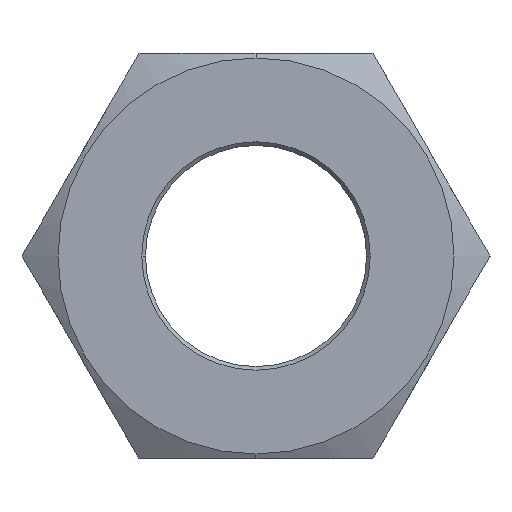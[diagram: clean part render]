
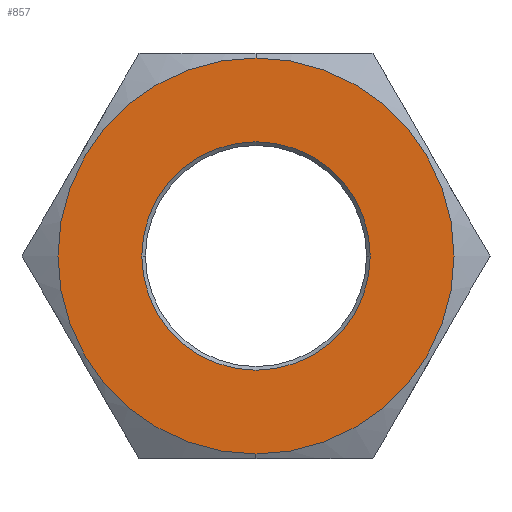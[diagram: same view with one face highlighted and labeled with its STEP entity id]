
A CAD part, left-side view. The second image highlights one B-rep face of the part: STEP entity #857.
In plain terms, the highlighted planar face has unit normal (-1, 0, 0) as drawn and (0, 0, 1) by its records, which use the part's own axes.
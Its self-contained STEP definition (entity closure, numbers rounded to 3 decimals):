
#141=CARTESIAN_POINT('',(10.75,0.0,8.));
#142=VERTEX_POINT('',#141);
#151=CARTESIAN_POINT('',(-10.75,0.,8.0));
#152=VERTEX_POINT('',#151);
#153=CARTESIAN_POINT('',(0.,0.0,8.0));
#154=DIRECTION('',(0.0,0.0,1.0));
#155=DIRECTION('',(1.0,0.0,0.0));
#156=AXIS2_PLACEMENT_3D('',#153,#154,#155);
#157=CIRCLE('',#156,10.75);
#158=EDGE_CURVE('',#152,#142,#157,.T.);
#471=CARTESIAN_POINT('',(0.,6.2,8.));
#472=VERTEX_POINT('',#471);
#480=CARTESIAN_POINT('',(0.,-6.2,8.0));
#481=VERTEX_POINT('',#480);
#488=CARTESIAN_POINT('',(0.,0.,8.0));
#489=DIRECTION('',(0.0,0.0,-1.0));
#490=DIRECTION('',(0.0,1.0,0.0));
#491=AXIS2_PLACEMENT_3D('',#488,#489,#490);
#492=CIRCLE('',#491,6.2);
#493=EDGE_CURVE('',#472,#481,#492,.T.);
#504=CARTESIAN_POINT('',(0.,0.,8.0));
#505=DIRECTION('',(0.0,0.0,-1.0));
#506=DIRECTION('',(0.0,1.0,0.0));
#507=AXIS2_PLACEMENT_3D('',#504,#505,#506);
#508=CIRCLE('',#507,6.2);
#509=EDGE_CURVE('',#481,#472,#508,.T.);
#728=CARTESIAN_POINT('',(0.,0.0,8.0));
#729=DIRECTION('',(0.0,0.0,1.0));
#730=DIRECTION('',(1.0,0.0,0.0));
#731=AXIS2_PLACEMENT_3D('',#728,#729,#730);
#732=CIRCLE('',#731,10.75);
#733=EDGE_CURVE('',#142,#152,#732,.T.);
#844=CARTESIAN_POINT('',(0.,0.,8.0));
#845=DIRECTION('',(0.0,0.0,1.0));
#846=DIRECTION('',(1.0,0.0,0.0));
#847=AXIS2_PLACEMENT_3D('',#844,#845,#846);
#848=PLANE('',#847);
#849=ORIENTED_EDGE('',*,*,#733,.T.);
#850=ORIENTED_EDGE('',*,*,#158,.T.);
#851=EDGE_LOOP('',(#849,#850));
#852=FACE_OUTER_BOUND('',#851,.T.);
#853=ORIENTED_EDGE('',*,*,#493,.T.);
#854=ORIENTED_EDGE('',*,*,#509,.T.);
#855=EDGE_LOOP('',(#853,#854));
#856=FACE_BOUND('',#855,.T.);
#857=ADVANCED_FACE('',(#852,#856),#848,.T.);
